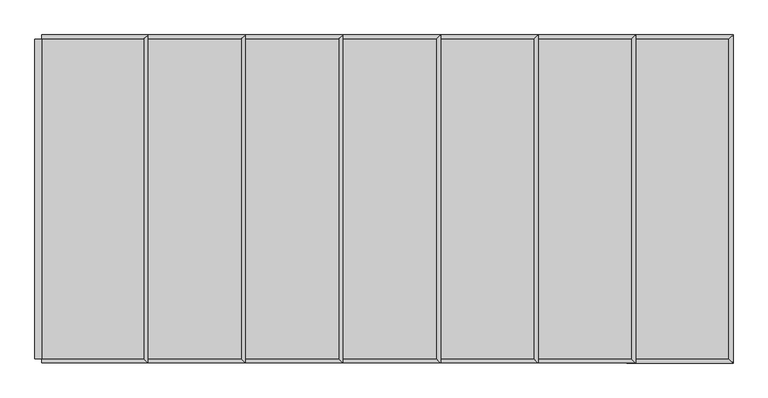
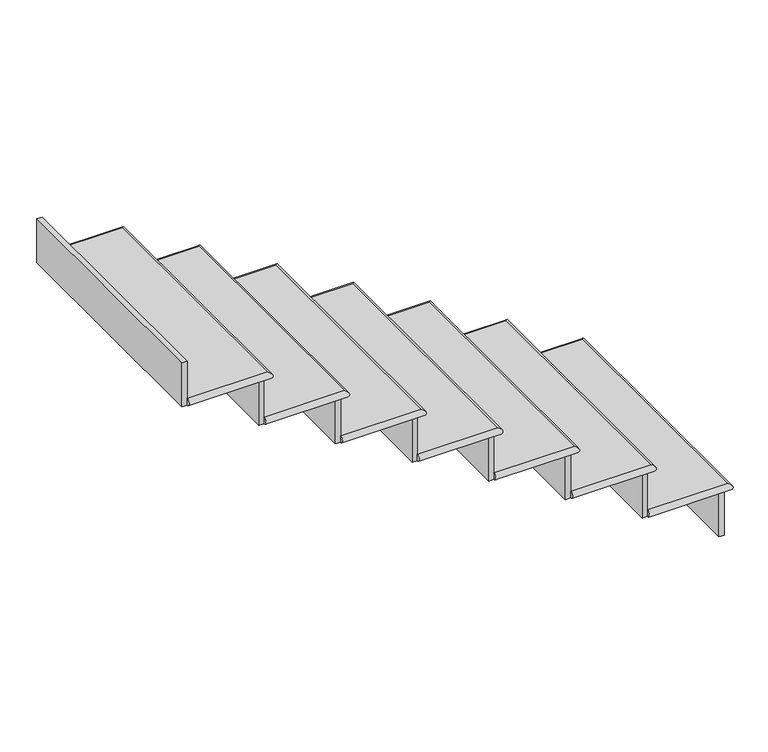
"""IFC4 building model written with IfcOpenShell, lengths in millimetres: stair flight geometry."""

from ifc_helpers import new_model, si_unit, frame, origin, place, context, project, spatial, circle_curve, ellipse_curve, faceted_brep, source, transform, mapped, element, save
from ifc_brep_helpers import plane_surface, cylinder_surface, advanced_brep


def stair_flight_cf9060d0(model_context):
    return source(origin(), model_context, "Body", "SolidModel", [
        advanced_brep(
        [(6585.8853665, 236.8832618, 1837.2666667), (6585.8853665, 236.8832618, 1862.6666667), (6585.8853665, -677.5167382, 1862.6666667), (6585.8853665, -677.5167382, 1837.2666667), (6293.7853665, 236.8832618, 1862.6666667), (6293.7853665, -677.5167382, 1862.6666667), (6293.7853665, -677.5167382, 1837.2666667), (6293.7853665, 236.8832618, 1837.2666667)],
        [
            (0, 1, ellipse_curve(frame((6585.8853665, 236.8832618, 1849.9666667), z_axis=(0.707106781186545, -0.7071067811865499, 0.0), x_axis=(0.7071067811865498, 0.7071067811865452, 0.0)), 17.9605122, 12.7)),
            (1, 2),
            (2, 3, ellipse_curve(frame((6585.8853665, -677.5167382, 1849.9666667), z_axis=(0.70710678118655, 0.707106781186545, 0.0), x_axis=(-0.7071067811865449, 0.70710678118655, 0.0)), 17.9605122, 12.7)),
            (3, 0),
            (4, 5),
            (5, 2),
            (1, 4),
            (6, 7),
            (7, 0),
            (3, 6),
            (4, 7, circle_curve(frame((6293.7853665, 236.8832618, 1849.9666667), z_axis=(-1.0, 0.0, 0.0), x_axis=(0.0, -1.0, 0.0)), 12.7)),
            (6, 5, circle_curve(frame((6293.7853665, -677.5167382, 1849.9666667), z_axis=(-1.0, 0.0, 0.0), x_axis=(0.0, 1.0, 0.0)), 12.7)),
        ],
        [
            cylinder_surface(frame((6585.8853665, 236.8832618, 1849.9666667), z_axis=(0.0, 1.0, 0.0), x_axis=(-1.0, 0.0, 0.0)), 12.7),
            plane_surface(frame((6598.5853665, -677.5167382, 1862.6666667), z_axis=(0.0, 0.0, 1.0), x_axis=(1.0, 0.0, 0.0))),
            plane_surface(frame((6598.5853665, -677.5167382, 1837.2666667), z_axis=(0.0, 0.0, -1.0), x_axis=(-1.0, 0.0, 0.0))),
            plane_surface(frame((6293.7853665, 236.8832618, 1862.6666667), z_axis=(-1.0, 0.0, 0.0), x_axis=(0.0, 0.0, -1.0))),
            cylinder_surface(frame((6293.7853665, 236.8832618, 1849.9666667), z_axis=(-1.0, 0.0, 0.0), x_axis=(0.0, -1.0, 0.0)), 12.7),
            cylinder_surface(frame((6585.8853665, -677.5167382, 1849.9666667), z_axis=(1.0, 0.0, 0.0), x_axis=(0.0, 1.0, 0.0)), 12.7),
        ],
        [
            (0, [[1, 2, 3, 4]]),
            (1, [[5, 6, -2, 7]]),
            (2, [[8, 9, -4, 10]]),
            (3, [[-5, 11, -8, 12]]),
            (4, [[-11, -7, -1, -9]]),
            (5, [[-3, -6, -12, -10]]),
        ],
    ),
        faceted_brep([(6573.1853665, 236.8832618, 1837.2666667), (6573.1853665, 236.8832618, 1667.9333333), (6554.1353665, 236.8832618, 1667.9333333), (6554.1353665, 236.8832618, 1837.2666667), (6573.1853665, -677.5167382, 1837.2666667), (6554.1353665, -677.5167382, 1837.2666667), (6554.1353665, -677.5167382, 1667.9333333), (6573.1853665, -677.5167382, 1667.9333333)], [[[0, 1, 2, 3]], [[4, 5, 6, 7]], [[1, 0, 4, 7]], [[2, 1, 7, 6]], [[3, 2, 6, 5]], [[0, 3, 5, 4]]]),
        faceted_brep([(6293.7853665, 236.8832618, 2006.6), (6293.7853665, 236.8832618, 1837.2666667), (6274.7353665, 236.8832618, 1837.2666667), (6274.7353665, 236.8832618, 2006.6), (6293.7853665, -677.5167382, 2006.6), (6274.7353665, -677.5167382, 2006.6), (6274.7353665, -677.5167382, 1837.2666667), (6293.7853665, -677.5167382, 1837.2666667)], [[[0, 1, 2, 3]], [[4, 5, 6, 7]], [[1, 0, 4, 7]], [[2, 1, 7, 6]], [[3, 2, 6, 5]], [[0, 3, 5, 4]]]),
        advanced_brep(
        [(6014.3853665, 236.8832618, 2032.0), (6014.3853665, -677.5167382, 2032.0), (6306.4853665, -677.5167382, 2032.0), (6306.4853665, 236.8832618, 2032.0), (6014.3853665, -677.5167382, 2006.6), (6014.3853665, 236.8832618, 2006.6), (6306.4853665, 236.8832618, 2006.6), (6306.4853665, -677.5167382, 2006.6)],
        [
            (0, 1),
            (1, 2),
            (2, 3),
            (3, 0),
            (4, 5),
            (5, 6),
            (6, 7),
            (7, 4),
            (0, 5, circle_curve(frame((6014.3853665, 236.8832618, 2019.3), z_axis=(-1.0, 0.0, 0.0), x_axis=(0.0, -1.0, 0.0)), 12.7)),
            (4, 1, circle_curve(frame((6014.3853665, -677.5167382, 2019.3), z_axis=(-1.0, 0.0, 0.0), x_axis=(0.0, 1.0, 0.0)), 12.7)),
            (6, 3, ellipse_curve(frame((6306.4853665, 236.8832618, 2019.3), z_axis=(0.7071067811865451, -0.7071067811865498, 0.0), x_axis=(0.7071067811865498, 0.7071067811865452, 0.0)), 17.9605122, 12.7)),
            (2, 7, ellipse_curve(frame((6306.4853665, -677.5167382, 2019.3), z_axis=(0.7071067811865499, 0.7071067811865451, 0.0), x_axis=(-0.7071067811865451, 0.70710678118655, 0.0)), 17.9605122, 12.7)),
        ],
        [
            plane_surface(frame((6598.5853665, -677.5167382, 2032.0), z_axis=(0.0, 0.0, 1.0), x_axis=(1.0, 0.0, 0.0))),
            plane_surface(frame((6598.5853665, -677.5167382, 2006.6), z_axis=(0.0, 0.0, -1.0), x_axis=(-1.0, 0.0, 0.0))),
            plane_surface(frame((6014.3853665, 236.8832618, 2032.0), z_axis=(-1.0, 0.0, 0.0), x_axis=(0.0, 0.0, -1.0))),
            cylinder_surface(frame((6306.4853665, 236.8832618, 2019.3), z_axis=(0.0, 1.0, 0.0), x_axis=(-1.0, 0.0, 0.0)), 12.7),
            cylinder_surface(frame((6014.3853665, 236.8832618, 2019.3), z_axis=(-1.0, 0.0, 0.0), x_axis=(0.0, -1.0, 0.0)), 12.7),
            cylinder_surface(frame((6306.4853665, -677.5167382, 2019.3), z_axis=(1.0, 0.0, 0.0), x_axis=(0.0, 1.0, 0.0)), 12.7),
        ],
        [
            (0, [[1, 2, 3, 4]]),
            (1, [[5, 6, 7, 8]]),
            (2, [[-1, 9, -5, 10]]),
            (3, [[11, -3, 12, -7]]),
            (4, [[-9, -4, -11, -6]]),
            (5, [[-12, -2, -10, -8]]),
        ],
    ),
        faceted_brep([(6014.3853665, 236.8832618, 2175.9333333), (6014.3853665, 236.8832618, 2006.6), (5995.3353665, 236.8832618, 2006.6), (5995.3353665, 236.8832618, 2175.9333333), (6014.3853665, -677.5167382, 2175.9333333), (5995.3353665, -677.5167382, 2175.9333333), (5995.3353665, -677.5167382, 2006.6), (6014.3853665, -677.5167382, 2006.6)], [[[0, 1, 2, 3]], [[4, 5, 6, 7]], [[1, 0, 4, 7]], [[2, 1, 7, 6]], [[3, 2, 6, 5]], [[0, 3, 5, 4]]]),
        advanced_brep(
        [(5734.9853665, 236.8832618, 2201.3333333), (5734.9853665, -677.5167382, 2201.3333333), (6027.0853665, -677.5167382, 2201.3333333), (6027.0853665, 236.8832618, 2201.3333333), (5734.9853665, -677.5167382, 2175.9333333), (5734.9853665, 236.8832618, 2175.9333333), (6027.0853665, 236.8832618, 2175.9333333), (6027.0853665, -677.5167382, 2175.9333333)],
        [
            (0, 1),
            (1, 2),
            (2, 3),
            (3, 0),
            (4, 5),
            (5, 6),
            (6, 7),
            (7, 4),
            (0, 5, circle_curve(frame((5734.9853665, 236.8832618, 2188.6333333), z_axis=(-1.0, 0.0, 0.0), x_axis=(0.0, -1.0, 0.0)), 12.7)),
            (4, 1, circle_curve(frame((5734.9853665, -677.5167382, 2188.6333333), z_axis=(-1.0, 0.0, 0.0), x_axis=(0.0, 1.0, 0.0)), 12.7)),
            (6, 3, ellipse_curve(frame((6027.0853665, 236.8832618, 2188.6333333), z_axis=(0.7071067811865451, -0.7071067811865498, 0.0), x_axis=(0.7071067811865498, 0.7071067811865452, 0.0)), 17.9605122, 12.7)),
            (2, 7, ellipse_curve(frame((6027.0853665, -677.5167382, 2188.6333333), z_axis=(0.7071067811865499, 0.7071067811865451, 0.0), x_axis=(-0.7071067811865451, 0.70710678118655, 0.0)), 17.9605122, 12.7)),
        ],
        [
            plane_surface(frame((6319.1853665, -677.5167382, 2201.3333333), z_axis=(0.0, 0.0, 1.0), x_axis=(1.0, 0.0, 0.0))),
            plane_surface(frame((6319.1853665, -677.5167382, 2175.9333333), z_axis=(0.0, 0.0, -1.0), x_axis=(-1.0, 0.0, 0.0))),
            plane_surface(frame((5734.9853665, 236.8832618, 2201.3333333), z_axis=(-1.0, 0.0, 0.0), x_axis=(0.0, 0.0, -1.0))),
            cylinder_surface(frame((6027.0853665, 236.8832618, 2188.6333333), z_axis=(0.0, 1.0, 0.0), x_axis=(-1.0, 0.0, 0.0)), 12.7),
            cylinder_surface(frame((5734.9853665, 236.8832618, 2188.6333333), z_axis=(-1.0, 0.0, 0.0), x_axis=(0.0, -1.0, 0.0)), 12.7),
            cylinder_surface(frame((6027.0853665, -677.5167382, 2188.6333333), z_axis=(1.0, 0.0, 0.0), x_axis=(0.0, 1.0, 0.0)), 12.7),
        ],
        [
            (0, [[1, 2, 3, 4]]),
            (1, [[5, 6, 7, 8]]),
            (2, [[-1, 9, -5, 10]]),
            (3, [[11, -3, 12, -7]]),
            (4, [[-9, -4, -11, -6]]),
            (5, [[-12, -2, -10, -8]]),
        ],
    ),
        faceted_brep([(5734.9853665, 236.8832618, 2345.2666667), (5734.9853665, 236.8832618, 2175.9333333), (5715.9353665, 236.8832618, 2175.9333333), (5715.9353665, 236.8832618, 2345.2666667), (5734.9853665, -677.5167382, 2345.2666667), (5715.9353665, -677.5167382, 2345.2666667), (5715.9353665, -677.5167382, 2175.9333333), (5734.9853665, -677.5167382, 2175.9333333)], [[[0, 1, 2, 3]], [[4, 5, 6, 7]], [[1, 0, 4, 7]], [[2, 1, 7, 6]], [[3, 2, 6, 5]], [[0, 3, 5, 4]]]),
        advanced_brep(
        [(5455.5853665, 236.8832618, 2370.6666667), (5455.5853665, -677.5167382, 2370.6666667), (5747.6853665, -677.5167382, 2370.6666667), (5747.6853665, 236.8832618, 2370.6666667), (5455.5853665, -677.5167382, 2345.2666667), (5455.5853665, 236.8832618, 2345.2666667), (5747.6853665, 236.8832618, 2345.2666667), (5747.6853665, -677.5167382, 2345.2666667)],
        [
            (0, 1),
            (1, 2),
            (2, 3),
            (3, 0),
            (4, 5),
            (5, 6),
            (6, 7),
            (7, 4),
            (0, 5, circle_curve(frame((5455.5853665, 236.8832618, 2357.9666667), z_axis=(-1.0, 0.0, 0.0), x_axis=(0.0, -1.0, 0.0)), 12.7)),
            (4, 1, circle_curve(frame((5455.5853665, -677.5167382, 2357.9666667), z_axis=(-1.0, 0.0, 0.0), x_axis=(0.0, 1.0, 0.0)), 12.7)),
            (6, 3, ellipse_curve(frame((5747.6853665, 236.8832618, 2357.9666667), z_axis=(0.7071067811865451, -0.7071067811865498, 0.0), x_axis=(0.7071067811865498, 0.7071067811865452, 0.0)), 17.9605122, 12.7)),
            (2, 7, ellipse_curve(frame((5747.6853665, -677.5167382, 2357.9666667), z_axis=(0.7071067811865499, 0.7071067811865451, 0.0), x_axis=(-0.7071067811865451, 0.70710678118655, 0.0)), 17.9605122, 12.7)),
        ],
        [
            plane_surface(frame((6039.7853665, -677.5167382, 2370.6666667), z_axis=(0.0, 0.0, 1.0), x_axis=(1.0, 0.0, 0.0))),
            plane_surface(frame((6039.7853665, -677.5167382, 2345.2666667), z_axis=(0.0, 0.0, -1.0), x_axis=(-1.0, 0.0, 0.0))),
            plane_surface(frame((5455.5853665, 236.8832618, 2370.6666667), z_axis=(-1.0, 0.0, 0.0), x_axis=(0.0, 0.0, -1.0))),
            cylinder_surface(frame((5747.6853665, 236.8832618, 2357.9666667), z_axis=(0.0, 1.0, 0.0), x_axis=(-1.0, 0.0, 0.0)), 12.7),
            cylinder_surface(frame((5455.5853665, 236.8832618, 2357.9666667), z_axis=(-1.0, 0.0, 0.0), x_axis=(0.0, -1.0, 0.0)), 12.7),
            cylinder_surface(frame((5747.6853665, -677.5167382, 2357.9666667), z_axis=(1.0, 0.0, 0.0), x_axis=(0.0, 1.0, 0.0)), 12.7),
        ],
        [
            (0, [[1, 2, 3, 4]]),
            (1, [[5, 6, 7, 8]]),
            (2, [[-1, 9, -5, 10]]),
            (3, [[11, -3, 12, -7]]),
            (4, [[-9, -4, -11, -6]]),
            (5, [[-12, -2, -10, -8]]),
        ],
    ),
        faceted_brep([(5455.5853665, 236.8832618, 2514.6), (5455.5853665, 236.8832618, 2345.2666667), (5436.5353665, 236.8832618, 2345.2666667), (5436.5353665, 236.8832618, 2514.6), (5455.5853665, -677.5167382, 2514.6), (5436.5353665, -677.5167382, 2514.6), (5436.5353665, -677.5167382, 2345.2666667), (5455.5853665, -677.5167382, 2345.2666667)], [[[0, 1, 2, 3]], [[4, 5, 6, 7]], [[1, 0, 4, 7]], [[2, 1, 7, 6]], [[3, 2, 6, 5]], [[0, 3, 5, 4]]]),
        advanced_brep(
        [(5176.1853665, 236.8832618, 2540.0), (5176.1853665, -677.5167382, 2540.0), (5468.2853665, -677.5167382, 2540.0), (5468.2853665, 236.8832618, 2540.0), (5176.1853665, -677.5167382, 2514.6), (5176.1853665, 236.8832618, 2514.6), (5468.2853665, 236.8832618, 2514.6), (5468.2853665, -677.5167382, 2514.6)],
        [
            (0, 1),
            (1, 2),
            (2, 3),
            (3, 0),
            (4, 5),
            (5, 6),
            (6, 7),
            (7, 4),
            (0, 5, circle_curve(frame((5176.1853665, 236.8832618, 2527.3), z_axis=(-1.0, 0.0, 0.0), x_axis=(0.0, -1.0, 0.0)), 12.7)),
            (4, 1, circle_curve(frame((5176.1853665, -677.5167382, 2527.3), z_axis=(-1.0, 0.0, 0.0), x_axis=(0.0, 1.0, 0.0)), 12.7)),
            (6, 3, ellipse_curve(frame((5468.2853665, 236.8832618, 2527.3), z_axis=(0.7071067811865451, -0.7071067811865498, 0.0), x_axis=(0.7071067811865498, 0.7071067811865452, 0.0)), 17.9605122, 12.7)),
            (2, 7, ellipse_curve(frame((5468.2853665, -677.5167382, 2527.3), z_axis=(0.7071067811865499, 0.7071067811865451, 0.0), x_axis=(-0.7071067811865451, 0.70710678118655, 0.0)), 17.9605122, 12.7)),
        ],
        [
            plane_surface(frame((5760.3853665, -677.5167382, 2540.0), z_axis=(0.0, 0.0, 1.0), x_axis=(1.0, 0.0, 0.0))),
            plane_surface(frame((5760.3853665, -677.5167382, 2514.6), z_axis=(0.0, 0.0, -1.0), x_axis=(-1.0, 0.0, 0.0))),
            plane_surface(frame((5176.1853665, 236.8832618, 2540.0), z_axis=(-1.0, 0.0, 0.0), x_axis=(0.0, 0.0, -1.0))),
            cylinder_surface(frame((5468.2853665, 236.8832618, 2527.3), z_axis=(0.0, 1.0, 0.0), x_axis=(-1.0, 0.0, 0.0)), 12.7),
            cylinder_surface(frame((5176.1853665, 236.8832618, 2527.3), z_axis=(-1.0, 0.0, 0.0), x_axis=(0.0, -1.0, 0.0)), 12.7),
            cylinder_surface(frame((5468.2853665, -677.5167382, 2527.3), z_axis=(1.0, 0.0, 0.0), x_axis=(0.0, 1.0, 0.0)), 12.7),
        ],
        [
            (0, [[1, 2, 3, 4]]),
            (1, [[5, 6, 7, 8]]),
            (2, [[-1, 9, -5, 10]]),
            (3, [[11, -3, 12, -7]]),
            (4, [[-9, -4, -11, -6]]),
            (5, [[-12, -2, -10, -8]]),
        ],
    ),
        faceted_brep([(5176.1853665, 236.8832618, 2683.9333333), (5176.1853665, 236.8832618, 2514.6), (5157.1353665, 236.8832618, 2514.6), (5157.1353665, 236.8832618, 2683.9333333), (5176.1853665, -677.5167382, 2683.9333333), (5157.1353665, -677.5167382, 2683.9333333), (5157.1353665, -677.5167382, 2514.6), (5176.1853665, -677.5167382, 2514.6)], [[[0, 1, 2, 3]], [[4, 5, 6, 7]], [[1, 0, 4, 7]], [[2, 1, 7, 6]], [[3, 2, 6, 5]], [[0, 3, 5, 4]]]),
        advanced_brep(
        [(4896.7853665, 236.8832618, 2709.3333333), (4896.7853665, -677.5167382, 2709.3333333), (5188.8853665, -677.5167382, 2709.3333333), (5188.8853665, 236.8832618, 2709.3333333), (4896.7853665, -677.5167382, 2683.9333333), (4896.7853665, 236.8832618, 2683.9333333), (5188.8853665, 236.8832618, 2683.9333333), (5188.8853665, -677.5167382, 2683.9333333)],
        [
            (0, 1),
            (1, 2),
            (2, 3),
            (3, 0),
            (4, 5),
            (5, 6),
            (6, 7),
            (7, 4),
            (0, 5, circle_curve(frame((4896.7853665, 236.8832618, 2696.6333333), z_axis=(-1.0, 0.0, 0.0), x_axis=(0.0, -1.0, 0.0)), 12.7)),
            (4, 1, circle_curve(frame((4896.7853665, -677.5167382, 2696.6333333), z_axis=(-1.0, 0.0, 0.0), x_axis=(0.0, 1.0, 0.0)), 12.7)),
            (6, 3, ellipse_curve(frame((5188.8853665, 236.8832618, 2696.6333333), z_axis=(0.7071067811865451, -0.7071067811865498, 0.0), x_axis=(0.7071067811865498, 0.7071067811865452, 0.0)), 17.9605122, 12.7)),
            (2, 7, ellipse_curve(frame((5188.8853665, -677.5167382, 2696.6333333), z_axis=(0.7071067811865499, 0.7071067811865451, 0.0), x_axis=(-0.7071067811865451, 0.70710678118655, 0.0)), 17.9605122, 12.7)),
        ],
        [
            plane_surface(frame((5480.9853665, -677.5167382, 2709.3333333), z_axis=(0.0, 0.0, 1.0), x_axis=(1.0, 0.0, 0.0))),
            plane_surface(frame((5480.9853665, -677.5167382, 2683.9333333), z_axis=(0.0, 0.0, -1.0), x_axis=(-1.0, 0.0, 0.0))),
            plane_surface(frame((4896.7853665, 236.8832618, 2709.3333333), z_axis=(-1.0, 0.0, 0.0), x_axis=(0.0, 0.0, -1.0))),
            cylinder_surface(frame((5188.8853665, 236.8832618, 2696.6333333), z_axis=(0.0, 1.0, 0.0), x_axis=(-1.0, 0.0, 0.0)), 12.7),
            cylinder_surface(frame((4896.7853665, 236.8832618, 2696.6333333), z_axis=(-1.0, 0.0, 0.0), x_axis=(0.0, -1.0, 0.0)), 12.7),
            cylinder_surface(frame((5188.8853665, -677.5167382, 2696.6333333), z_axis=(1.0, 0.0, 0.0), x_axis=(0.0, 1.0, 0.0)), 12.7),
        ],
        [
            (0, [[1, 2, 3, 4]]),
            (1, [[5, 6, 7, 8]]),
            (2, [[-1, 9, -5, 10]]),
            (3, [[11, -3, 12, -7]]),
            (4, [[-9, -4, -11, -6]]),
            (5, [[-12, -2, -10, -8]]),
        ],
    ),
        faceted_brep([(4896.7853665, 236.8832618, 2853.2666667), (4896.7853665, 236.8832618, 2683.9333333), (4877.7353665, 236.8832618, 2683.9333333), (4877.7353665, 236.8832618, 2853.2666667), (4896.7853665, -677.5167382, 2853.2666667), (4877.7353665, -677.5167382, 2853.2666667), (4877.7353665, -677.5167382, 2683.9333333), (4896.7853665, -677.5167382, 2683.9333333)], [[[0, 1, 2, 3]], [[4, 5, 6, 7]], [[1, 0, 4, 7]], [[2, 1, 7, 6]], [[3, 2, 6, 5]], [[0, 3, 5, 4]]]),
        faceted_brep([(4617.3853665, 236.8832618, 3022.6), (4617.3853665, 236.8832618, 2853.2666667), (4598.3353665, 236.8832618, 2853.2666667), (4598.3353665, 236.8832618, 3022.6), (4617.3853665, -677.5167382, 3022.6), (4598.3353665, -677.5167382, 3022.6), (4598.3353665, -677.5167382, 2853.2666667), (4617.3853665, -677.5167382, 2853.2666667)], [[[0, 1, 2, 3]], [[4, 5, 6, 7]], [[1, 0, 4, 7]], [[2, 1, 7, 6]], [[3, 2, 6, 5]], [[0, 3, 5, 4]]]),
        advanced_brep(
        [(4617.3853665, 236.8832618, 2878.6666667), (4617.3853665, -677.5167382, 2878.6666667), (4909.4853665, -677.5167382, 2878.6666667), (4909.4853665, 236.8832618, 2878.6666667), (4617.3853665, -677.5167382, 2853.2666667), (4617.3853665, 236.8832618, 2853.2666667), (4909.4853665, 236.8832618, 2853.2666667), (4909.4853665, -677.5167382, 2853.2666667)],
        [
            (0, 1),
            (1, 2),
            (2, 3),
            (3, 0),
            (4, 5),
            (5, 6),
            (6, 7),
            (7, 4),
            (0, 5, circle_curve(frame((4617.3853665, 236.8832618, 2865.9666667), z_axis=(-1.0, 0.0, 0.0), x_axis=(0.0, -1.0, 0.0)), 12.7)),
            (4, 1, circle_curve(frame((4617.3853665, -677.5167382, 2865.9666667), z_axis=(-1.0, 0.0, 0.0), x_axis=(0.0, 1.0, 0.0)), 12.7)),
            (6, 3, ellipse_curve(frame((4909.4853665, 236.8832618, 2865.9666667), z_axis=(0.7071067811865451, -0.7071067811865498, 0.0), x_axis=(0.7071067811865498, 0.7071067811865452, 0.0)), 17.9605122, 12.7)),
            (2, 7, ellipse_curve(frame((4909.4853665, -677.5167382, 2865.9666667), z_axis=(0.7071067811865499, 0.7071067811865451, 0.0), x_axis=(-0.7071067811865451, 0.70710678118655, 0.0)), 17.9605122, 12.7)),
        ],
        [
            plane_surface(frame((5201.5853665, -677.5167382, 2878.6666667), z_axis=(0.0, 0.0, 1.0), x_axis=(1.0, 0.0, 0.0))),
            plane_surface(frame((5201.5853665, -677.5167382, 2853.2666667), z_axis=(0.0, 0.0, -1.0), x_axis=(-1.0, 0.0, 0.0))),
            plane_surface(frame((4617.3853665, 236.8832618, 2878.6666667), z_axis=(-1.0, 0.0, 0.0), x_axis=(0.0, 0.0, -1.0))),
            cylinder_surface(frame((4909.4853665, 236.8832618, 2865.9666667), z_axis=(0.0, 1.0, 0.0), x_axis=(-1.0, 0.0, 0.0)), 12.7),
            cylinder_surface(frame((4617.3853665, 236.8832618, 2865.9666667), z_axis=(-1.0, 0.0, 0.0), x_axis=(0.0, -1.0, 0.0)), 12.7),
            cylinder_surface(frame((4909.4853665, -677.5167382, 2865.9666667), z_axis=(1.0, 0.0, 0.0), x_axis=(0.0, 1.0, 0.0)), 12.7),
        ],
        [
            (0, [[1, 2, 3, 4]]),
            (1, [[5, 6, 7, 8]]),
            (2, [[-1, 9, -5, 10]]),
            (3, [[11, -3, 12, -7]]),
            (4, [[-9, -4, -11, -6]]),
            (5, [[-12, -2, -10, -8]]),
        ],
    ),
    ])


if __name__ == "__main__":
    model = new_model("IFC4")
    model_context = context("Model", 3, world=origin())
    ifc_project = project(units=[si_unit("LENGTHUNIT", "METRE", prefix="MILLI")], contexts=[model_context])
    site = spatial("IfcSite", under=ifc_project)
    building = spatial("IfcBuilding", under=site)
    placement = place(None, origin())
    stair_flight_shape = stair_flight_cf9060d0(model_context)
    element("IfcStairFlight", 1, ObjectType="Unassigned Steps with 1\" Tread 1\" Nosing 3/4\" Riser (1)", at=placement, inside=building, context=model_context, shape_type="MappedRepresentation", body=[
        mapped(stair_flight_shape, transform((0.0, 0.0, 0.0), x_axis=(1.0, 0.0, 0.0), y_axis=(0.0, 1.0, 0.0), z_axis=(0.0, 0.0, 1.0))),
    ])
    save(model, "model.ifc")
